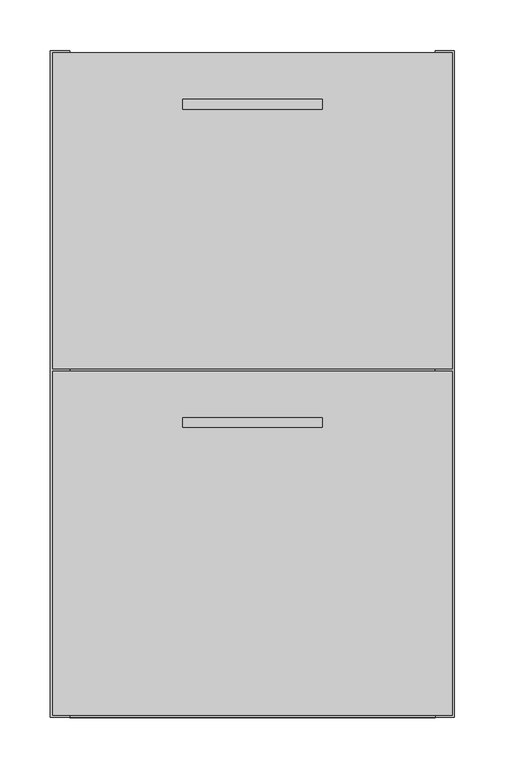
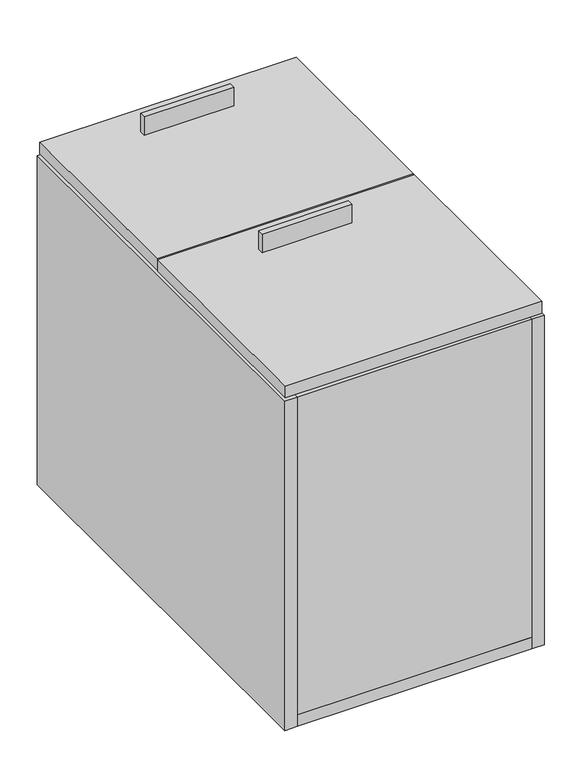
"""IFC4 building model written with IfcOpenShell, lengths in millimetres: proxy geometry, FOUNDATION^PEDESTAL_LETTER FF 22D-SOLID ASSEMBLY."""

from ifc_helpers import new_model, si_unit, frame, origin, origin_with_axes, place, context, project, spatial, polyline, outline, extrude, source, transform, mapped, element, save


def generic_models_948baabf(model_context):
    return source(origin(), model_context, "Body", "SweptSolid", [
        extrude(outline(polyline([(269.08125, 287.3375), (130.96875, 287.3375), (130.96875, 296.8625), (269.08125, 296.8625), (269.08125, 287.3375)])), frame((0.0, 0.0, 558.8), z_axis=(0.0, 0.0, 1.0), x_axis=(1.0, 0.0, 0.0)), (0.0, 0.0, 1.0), 30.1625),
        extrude(outline(polyline([(269.08125, 602.45625), (130.96875, 602.45625), (130.96875, 611.98125), (269.08125, 611.98125), (269.08125, 602.45625)])), frame((0.0, 0.0, 558.8), z_axis=(0.0, 0.0, 1.0), x_axis=(1.0, 0.0, 0.0)), (0.0, 0.0, 1.0), 30.1625),
        extrude(outline(polyline([(0.0, 660.4), (19.05, 660.4), (19.05, 0.0), (0.0, 0.0), (0.0, 660.4)])), origin_with_axes(), (0.0, 0.0, 1.0), 536.575),
        extrude(outline(polyline([(397.66875, 345.28125), (2.38125, 345.28125), (2.38125, 658.01875), (397.66875, 658.01875), (397.66875, 345.28125)])), frame((0.0, 0.0, 539.75), z_axis=(0.0, 0.0, 1.0), x_axis=(1.0, 0.0, 0.0)), (0.0, 0.0, 1.0), 19.05),
        extrude(outline(polyline([(381.0, 25.4), (381.0, 0.0), (19.05, 0.0), (19.05, 25.4), (381.0, 25.4)])), frame((0.0, 0.0, 19.05), z_axis=(0.0, 0.0, 1.0), x_axis=(1.0, 0.0, 0.0)), (0.0, 0.0, 1.0), 517.525),
        extrude(outline(polyline([(2.38125, 2.38125), (2.38125, 342.9), (397.66875, 342.9), (397.66875, 2.38125), (2.38125, 2.38125)])), frame((0.0, 0.0, 539.75), z_axis=(0.0, 0.0, 1.0), x_axis=(1.0, 0.0, 0.0)), (0.0, 0.0, 1.0), 19.05),
        extrude(outline(polyline([(19.05, 546.1), (381.0, 546.1), (381.0, 0.0), (19.05, 0.0), (19.05, 546.1)])), origin_with_axes(), (0.0, 0.0, 1.0), 19.05),
        extrude(outline(polyline([(381.0, 660.4), (400.05, 660.4), (400.05, 0.0), (381.0, 0.0), (381.0, 660.4)])), origin_with_axes(), (0.0, 0.0, 1.0), 536.575),
    ])


if __name__ == "__main__":
    model = new_model("IFC4")
    model_context = context("Model", 3, world=origin())
    ifc_project = project(units=[si_unit("LENGTHUNIT", "METRE", prefix="MILLI")], contexts=[model_context])
    site = spatial("IfcSite", under=ifc_project)
    building = spatial("IfcBuilding", under=site)
    placement = place(None, origin())
    generic_models_shape = generic_models_948baabf(model_context)
    element("IfcBuildingElementProxy", 1, Name="FOUNDATION^PEDESTAL_LETTER FF 22D-SOLID ASSEMBLY", ObjectType="FOUNDATION^PEDESTAL_LETTER FF 22D-SOLID ASSEMBLY", at=placement, inside=building, context=model_context, shape_type="MappedRepresentation", body=[
        mapped(generic_models_shape, transform((0.0, 0.0, 0.0), x_axis=(1.0, 0.0, 0.0), y_axis=(0.0, 1.0, 0.0), z_axis=(0.0, 0.0, 1.0))),
    ])
    save(model, "model.ifc")
